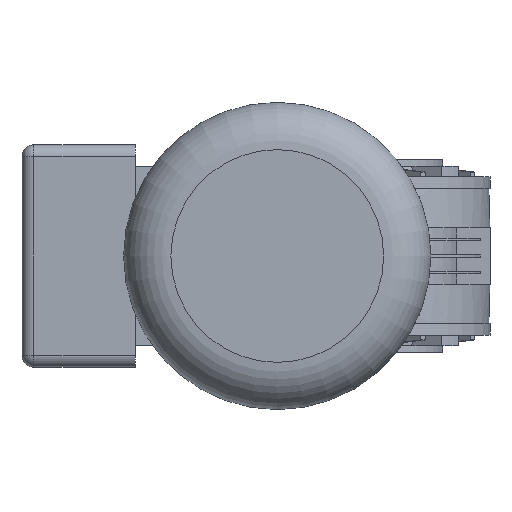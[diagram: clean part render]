
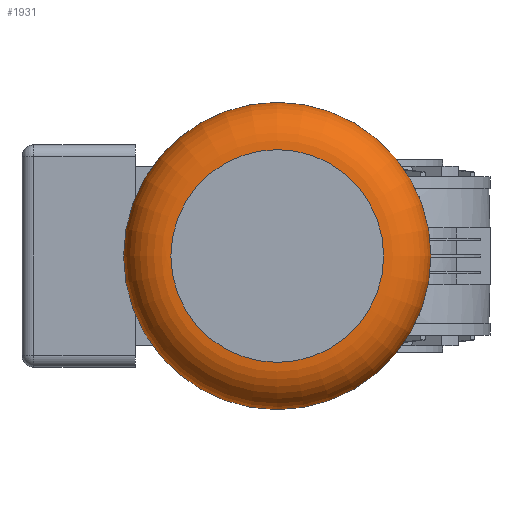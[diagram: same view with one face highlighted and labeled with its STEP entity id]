
A CAD part, left-side view. The second image highlights one B-rep face of the part: STEP entity #1931.
In plain terms, the highlighted toroidal (fillet/blend) face has major radius 45 mm and minor radius 20 mm.
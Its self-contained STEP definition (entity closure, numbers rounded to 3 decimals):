
#1931 = ADVANCED_FACE( '', ( #4220, #4221 ), #4222, .T. );
#4220 = FACE_OUTER_BOUND( '', #6812, .T. );
#4221 = FACE_OUTER_BOUND( '', #6813, .T. );
#4222 = TOROIDAL_SURFACE( '', #6814, 45., 20. );
#6812 = EDGE_LOOP( '', ( #12643 ) );
#6813 = EDGE_LOOP( '', ( #12644 ) );
#6814 = AXIS2_PLACEMENT_3D( '', #12645, #12646, #12647 );
#12643 = ORIENTED_EDGE( '', *, *, #16559, .F. );
#12644 = ORIENTED_EDGE( '', *, *, #15673, .F. );
#12645 = CARTESIAN_POINT( '', ( -247.5, 40., 0. ) );
#12646 = DIRECTION( '', ( -1., 0., 0. ) );
#12647 = DIRECTION( '', ( 0., 1., 0. ) );
#15673 = EDGE_CURVE( '', #19114, #19114, #19115, .F. );
#16559 = EDGE_CURVE( '', #20464, #20464, #20465, .T. );
#19114 = VERTEX_POINT( '', #24151 );
#19115 = CIRCLE( '', #24152, 65. );
#20464 = VERTEX_POINT( '', #26440 );
#20465 = CIRCLE( '', #26441, 45. );
#24151 = CARTESIAN_POINT( '', ( -247.5, 105., 0. ) );
#24152 = AXIS2_PLACEMENT_3D( '', #29210, #29211, #29212 );
#26440 = CARTESIAN_POINT( '', ( -267.5, 85., 0. ) );
#26441 = AXIS2_PLACEMENT_3D( '', #30139, #30140, #30141 );
#29210 = CARTESIAN_POINT( '', ( -247.5, 40., 0. ) );
#29211 = DIRECTION( '', ( -1., 0., 0. ) );
#29212 = DIRECTION( '', ( 0., 1., 0. ) );
#30139 = CARTESIAN_POINT( '', ( -267.5, 40., 0. ) );
#30140 = DIRECTION( '', ( -1., 0., 0. ) );
#30141 = DIRECTION( '', ( 0., 1., 0. ) );
